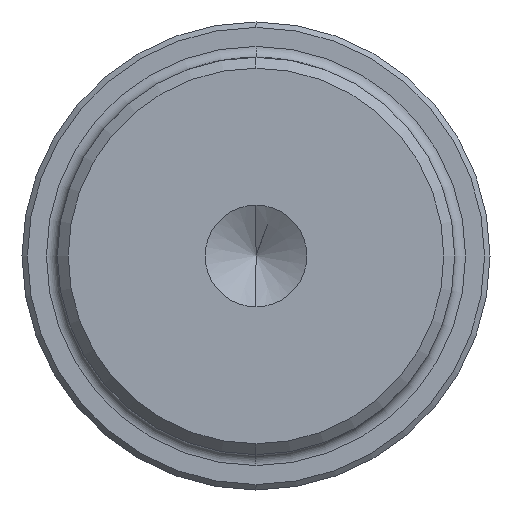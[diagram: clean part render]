
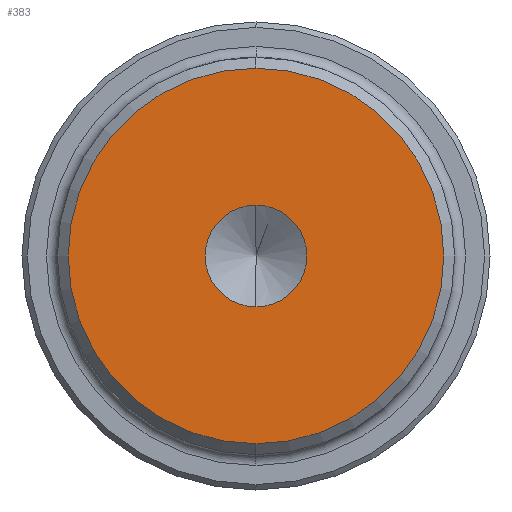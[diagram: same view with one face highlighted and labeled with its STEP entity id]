
A CAD part, left-side view. The second image highlights one B-rep face of the part: STEP entity #383.
In plain terms, the highlighted planar face has unit normal (-1, 0, 0).
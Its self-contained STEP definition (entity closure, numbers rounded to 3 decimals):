
#61 = CARTESIAN_POINT ( 'NONE',  ( -80.75, 0., 17.255 ) ) ;
#70 = CARTESIAN_POINT ( 'NONE',  ( -80.75, 0., -17.255 ) ) ;
#80 = EDGE_LOOP ( 'NONE', ( #1323, #1324 ) ) ;
#89 = EDGE_LOOP ( 'NONE', ( #1325, #1326 ) ) ;
#205 = VERTEX_POINT ( 'NONE', #61 ) ;
#213 = VERTEX_POINT ( 'NONE', #70 ) ;
#255 = EDGE_CURVE ( 'NONE', #213, #205, #995, .T. ) ;
#256 = EDGE_CURVE ( 'NONE', #988, #304, #1001, .T. ) ;
#296 = EDGE_CURVE ( 'NONE', #205, #213, #613, .T. ) ;
#301 = EDGE_CURVE ( 'NONE', #304, #988, #619, .T. ) ;
#304 = VERTEX_POINT ( 'NONE', #1089 ) ;
#321 = AXIS2_PLACEMENT_3D ( 'NONE', #568, #577, #578 ) ;
#383 = ADVANCED_FACE ( 'NONE', ( #652, #667 ), #572, .F. ) ;
#490 = AXIS2_PLACEMENT_3D ( 'NONE', #959, #960, #961 ) ;
#491 = AXIS2_PLACEMENT_3D ( 'NONE', #963, #964, #965 ) ;
#508 = AXIS2_PLACEMENT_3D ( 'NONE', #1378, #1379, #1380 ) ;
#510 = AXIS2_PLACEMENT_3D ( 'NONE', #1068, #1069, #1070 ) ;
#568 = CARTESIAN_POINT ( 'NONE',  ( -80.75, 0., 0. ) ) ;
#572 = PLANE ( 'NONE',  #321 ) ;
#577 = DIRECTION ( 'NONE',  ( 1., 0., 0. ) ) ;
#578 = DIRECTION ( 'NONE',  ( 0., 0., -1. ) ) ;
#613 = CIRCLE ( 'NONE', #508, 17.255 ) ;
#619 = CIRCLE ( 'NONE', #510, 4.675 ) ;
#652 = FACE_BOUND ( 'NONE', #80, .T. ) ;
#667 = FACE_OUTER_BOUND ( 'NONE', #89, .T. ) ;
#959 = CARTESIAN_POINT ( 'NONE',  ( -80.75, 0., 0. ) ) ;
#960 = DIRECTION ( 'NONE',  ( -1., 0., 0. ) ) ;
#961 = DIRECTION ( 'NONE',  ( 0., 0., 1. ) ) ;
#963 = CARTESIAN_POINT ( 'NONE',  ( -80.75, 0., 0. ) ) ;
#964 = DIRECTION ( 'NONE',  ( -1., 0., 0. ) ) ;
#965 = DIRECTION ( 'NONE',  ( 0., 0., 1. ) ) ;
#988 = VERTEX_POINT ( 'NONE', #1179 ) ;
#995 = CIRCLE ( 'NONE', #490, 17.255 ) ;
#1001 = CIRCLE ( 'NONE', #491, 4.675 ) ;
#1068 = CARTESIAN_POINT ( 'NONE',  ( -80.75, 0., 0. ) ) ;
#1069 = DIRECTION ( 'NONE',  ( -1., 0., 0. ) ) ;
#1070 = DIRECTION ( 'NONE',  ( 0., 0., 1. ) ) ;
#1089 = CARTESIAN_POINT ( 'NONE',  ( -80.75, 0., -4.675 ) ) ;
#1179 = CARTESIAN_POINT ( 'NONE',  ( -80.75, 0., 4.675 ) ) ;
#1323 = ORIENTED_EDGE ( 'NONE', *, *, #256, .F. ) ;
#1324 = ORIENTED_EDGE ( 'NONE', *, *, #301, .F. ) ;
#1325 = ORIENTED_EDGE ( 'NONE', *, *, #255, .T. ) ;
#1326 = ORIENTED_EDGE ( 'NONE', *, *, #296, .T. ) ;
#1378 = CARTESIAN_POINT ( 'NONE',  ( -80.75, 0., 0. ) ) ;
#1379 = DIRECTION ( 'NONE',  ( -1., 0., 0. ) ) ;
#1380 = DIRECTION ( 'NONE',  ( 0., 0., 1. ) ) ;
